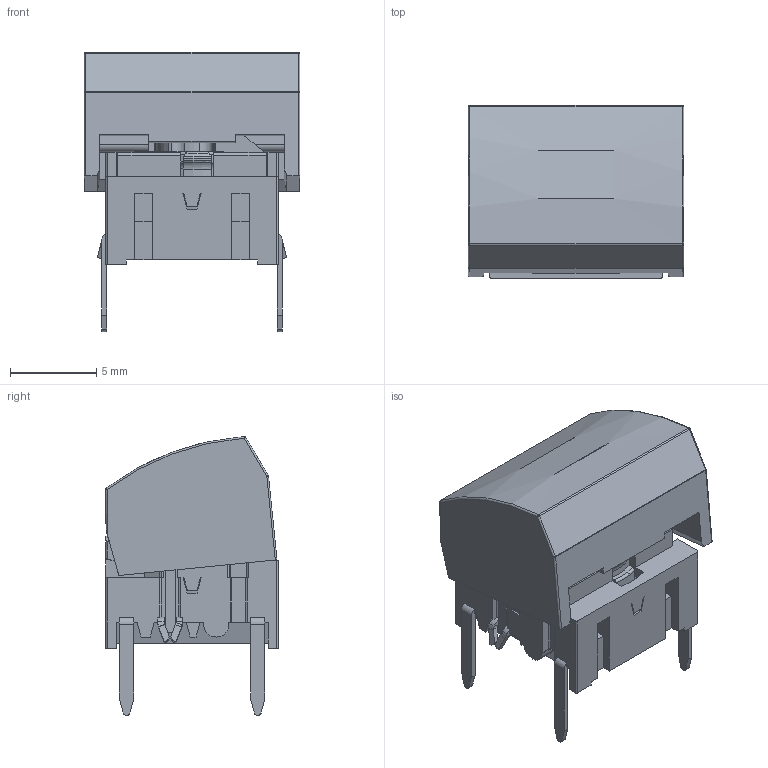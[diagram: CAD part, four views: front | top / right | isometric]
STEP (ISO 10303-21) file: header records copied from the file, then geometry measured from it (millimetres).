
FILE_DESCRIPTION(/* description */ (''),/* implementation_level */ '2;1');
FILE_NAME(/* name */ 'C:\Users\cgh.MEC\Desktop\Traceparts - 3D programserie\STEP filer\il-TH\5GTH9xxxxxxx+1H.stp',/* time_stamp */ '2016-02-29T06:53:35+01:00',/* author */ ('cgh'),/* organization */ (''),/* preprocessor_version */ 'ST-DEVELOPER v15.2',/* originating_system */ 'Autodesk Inventor 2014',/* authorisation */ '');
FILE_SCHEMA (('AUTOMOTIVE_DESIGN { 1 0 10303 214 3 1 1 }'));
Length unit declared in the file: centimetre
Products named in the file (1): cgh
Bounding box: 12.5 x 10.02 x 16.18 mm (x, y, z)
Volume: 711.6 mm3; surface area: 1781.6 mm2
Topology: 1 solids, 1 shells, 1294 faces, 3662 edges, 2391 vertices
Faces by surface type: plane 878, cylinder 205, bspline 112, torus 58, cone 30, sphere 11
Full cylindrical faces by diameter (mm): 0.9 x1, 1 x3, 2.8 x1, 4.73 x1, 6.5 x1, 7.44 x1
Entity records: 44661 total; most frequent: CARTESIAN_POINT 10398, ORIENTED_EDGE 7244, DIRECTION 6292, EDGE_CURVE 3620, LINE 2536, VECTOR 2536, VERTEX_POINT 2380, AXIS2_PLACEMENT_3D 1878
